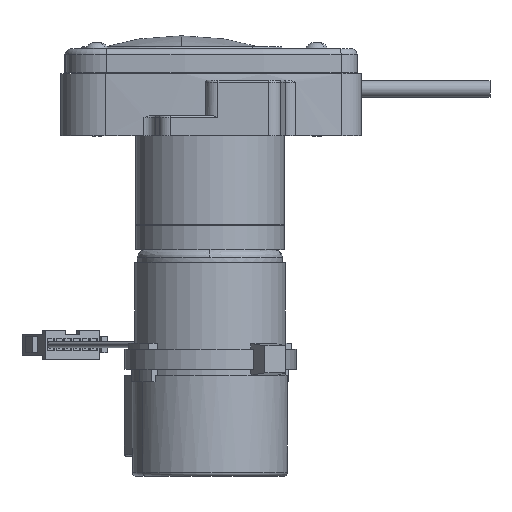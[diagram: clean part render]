
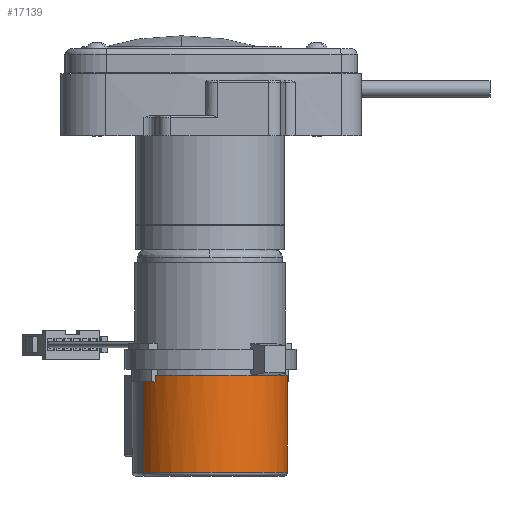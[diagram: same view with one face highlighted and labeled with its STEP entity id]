
A CAD part, left-side view. The second image highlights one B-rep face of the part: STEP entity #17139.
In plain terms, the highlighted cylindrical face has radius 19.25 mm (diameter 38.5 mm), a partial arc.
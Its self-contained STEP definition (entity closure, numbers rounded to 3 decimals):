
#303 = CARTESIAN_POINT ( 'NONE',  ( 0., 0., 25. ) ) ;
#586 = AXIS2_PLACEMENT_3D ( 'NONE', #3099, #19675, #23158 ) ;
#719 = LINE ( 'NONE', #13545, #5396 ) ;
#931 = CARTESIAN_POINT ( 'NONE',  ( 18.589, -5., 23.5 ) ) ;
#1332 = ORIENTED_EDGE ( 'NONE', *, *, #9293, .T. ) ;
#1434 = ORIENTED_EDGE ( 'NONE', *, *, #9372, .F. ) ;
#1863 = CARTESIAN_POINT ( 'NONE',  ( -19.25, 0., 25. ) ) ;
#2350 = CARTESIAN_POINT ( 'NONE',  ( 0., 0., 23.5 ) ) ;
#2416 = EDGE_LOOP ( 'NONE', ( #23046, #7723, #14794, #1434, #11125, #16468, #1332, #8624 ) ) ;
#2543 = CIRCLE ( 'NONE', #15962, 19.25 ) ;
#2721 = DIRECTION ( 'NONE',  ( 0., 0., 1. ) ) ;
#3023 = VERTEX_POINT ( 'NONE', #6204 ) ;
#3099 = CARTESIAN_POINT ( 'NONE',  ( 0., 0., 25. ) ) ;
#3891 = VERTEX_POINT ( 'NONE', #5516 ) ;
#4470 = CIRCLE ( 'NONE', #15209, 19.25 ) ;
#4715 = CARTESIAN_POINT ( 'NONE',  ( -18.589, -5., 25. ) ) ;
#4927 = CARTESIAN_POINT ( 'NONE',  ( 18.589, -5., 25. ) ) ;
#5396 = VECTOR ( 'NONE', #13428, 1000. ) ;
#5437 = EDGE_CURVE ( 'NONE', #17213, #3023, #15808, .T. ) ;
#5516 = CARTESIAN_POINT ( 'NONE',  ( -19.25, 0., 1. ) ) ;
#5574 = LINE ( 'NONE', #1863, #9832 ) ;
#5736 = EDGE_CURVE ( 'NONE', #11762, #22888, #16902, .T. ) ;
#5942 = DIRECTION ( 'NONE',  ( 0., 0., 1. ) ) ;
#6006 = VECTOR ( 'NONE', #7411, 1000. ) ;
#6047 = DIRECTION ( 'NONE',  ( 0., 0., 1. ) ) ;
#6204 = CARTESIAN_POINT ( 'NONE',  ( -18.589, -5., 23.5 ) ) ;
#7338 = DIRECTION ( 'NONE',  ( 1., 0., 0. ) ) ;
#7411 = DIRECTION ( 'NONE',  ( 0., 0., 1. ) ) ;
#7683 = DIRECTION ( 'NONE',  ( 0., 0., 1. ) ) ;
#7723 = ORIENTED_EDGE ( 'NONE', *, *, #5736, .F. ) ;
#7840 = DIRECTION ( 'NONE',  ( 1., 0., 0. ) ) ;
#8473 = DIRECTION ( 'NONE',  ( -1., 0., 0. ) ) ;
#8624 = ORIENTED_EDGE ( 'NONE', *, *, #16887, .T. ) ;
#8854 = CYLINDRICAL_SURFACE ( 'NONE', #586, 19.25 ) ;
#8927 = EDGE_CURVE ( 'NONE', #3023, #19752, #12931, .T. ) ;
#9293 = EDGE_CURVE ( 'NONE', #17213, #3891, #5574, .T. ) ;
#9372 = EDGE_CURVE ( 'NONE', #19752, #16829, #4470, .T. ) ;
#9832 = VECTOR ( 'NONE', #10741, 1000. ) ;
#10287 = CARTESIAN_POINT ( 'NONE',  ( 18.589, -5., 23.5 ) ) ;
#10502 = DIRECTION ( 'NONE',  ( 0., 0., 1. ) ) ;
#10741 = DIRECTION ( 'NONE',  ( 0., 0., -1. ) ) ;
#11125 = ORIENTED_EDGE ( 'NONE', *, *, #8927, .F. ) ;
#11762 = VERTEX_POINT ( 'NONE', #10287 ) ;
#12931 = LINE ( 'NONE', #17897, #6006 ) ;
#12976 = EDGE_CURVE ( 'NONE', #22888, #19847, #719, .T. ) ;
#13428 = DIRECTION ( 'NONE',  ( 0., 0., -1. ) ) ;
#13501 = DIRECTION ( 'NONE',  ( -1., 0., 0. ) ) ;
#13545 = CARTESIAN_POINT ( 'NONE',  ( 19.25, 0., 25. ) ) ;
#14021 = FACE_OUTER_BOUND ( 'NONE', #2416, .T. ) ;
#14677 = EDGE_CURVE ( 'NONE', #11762, #16829, #17479, .T. ) ;
#14794 = ORIENTED_EDGE ( 'NONE', *, *, #14677, .T. ) ;
#14973 = VECTOR ( 'NONE', #10502, 1000. ) ;
#15209 = AXIS2_PLACEMENT_3D ( 'NONE', #303, #6047, #7840 ) ;
#15808 = CIRCLE ( 'NONE', #16962, 19.25 ) ;
#15923 = CARTESIAN_POINT ( 'NONE',  ( 0., 0., 23.5 ) ) ;
#15962 = AXIS2_PLACEMENT_3D ( 'NONE', #18265, #7683, #7338 ) ;
#16468 = ORIENTED_EDGE ( 'NONE', *, *, #5437, .F. ) ;
#16829 = VERTEX_POINT ( 'NONE', #4927 ) ;
#16887 = EDGE_CURVE ( 'NONE', #3891, #19847, #2543, .T. ) ;
#16902 = CIRCLE ( 'NONE', #22272, 19.25 ) ;
#16962 = AXIS2_PLACEMENT_3D ( 'NONE', #15923, #2721, #8473 ) ;
#17139 = ADVANCED_FACE ( 'NONE', ( #14021 ), #8854, .T. ) ;
#17213 = VERTEX_POINT ( 'NONE', #19439 ) ;
#17479 = LINE ( 'NONE', #931, #14973 ) ;
#17897 = CARTESIAN_POINT ( 'NONE',  ( -18.589, -5., 23.5 ) ) ;
#18053 = CARTESIAN_POINT ( 'NONE',  ( 19.25, 0., 1. ) ) ;
#18265 = CARTESIAN_POINT ( 'NONE',  ( 0., 0., 1. ) ) ;
#19439 = CARTESIAN_POINT ( 'NONE',  ( -19.25, 0., 23.5 ) ) ;
#19675 = DIRECTION ( 'NONE',  ( 0., 0., -1. ) ) ;
#19752 = VERTEX_POINT ( 'NONE', #4715 ) ;
#19847 = VERTEX_POINT ( 'NONE', #18053 ) ;
#21795 = CARTESIAN_POINT ( 'NONE',  ( 19.25, 0., 23.5 ) ) ;
#22272 = AXIS2_PLACEMENT_3D ( 'NONE', #2350, #5942, #13501 ) ;
#22888 = VERTEX_POINT ( 'NONE', #21795 ) ;
#23046 = ORIENTED_EDGE ( 'NONE', *, *, #12976, .F. ) ;
#23158 = DIRECTION ( 'NONE',  ( -1., 0., 0. ) ) ;
